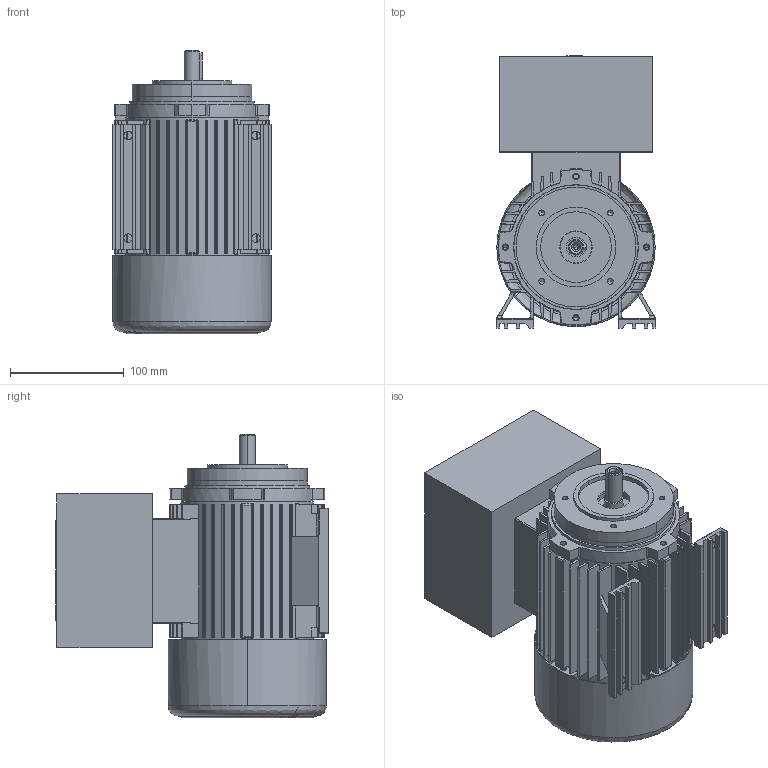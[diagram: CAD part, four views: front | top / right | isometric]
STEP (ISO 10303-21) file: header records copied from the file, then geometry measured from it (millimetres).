
FILE_DESCRIPTION (( 'STEP AP214' ), '1' );
FILE_NAME ('20.17496-F 5AT 71 B34_F85 Exde STANDK.STEP', '2018-11-15T09:12:31', ( '' ), ( '' ), 'SwSTEP 2.0', 'SolidWorks 2018', '' );
FILE_SCHEMA (( 'AUTOMOTIVE_DESIGN' ));
Length unit declared in the file: millimetre
Products named in the file (1): 20.17496-F 5AT 71 B34_F85 Exde STANDK
Bounding box: 140 x 239 x 249 mm (x, y, z)
Volume: 2783799.8 mm3; surface area: 444733.6 mm2
Topology: 4 solids, 4 shells, 915 faces, 2333 edges, 1471 vertices
Faces by surface type: plane 420, cylinder 351, bspline 94, cone 50
Entity records: 30386 total; most frequent: CARTESIAN_POINT 8248, DIRECTION 4623, ORIENTED_EDGE 4590, EDGE_CURVE 2295, AXIS2_PLACEMENT_3D 1670, VERTEX_POINT 1471, VECTOR 1283, LINE 1283
